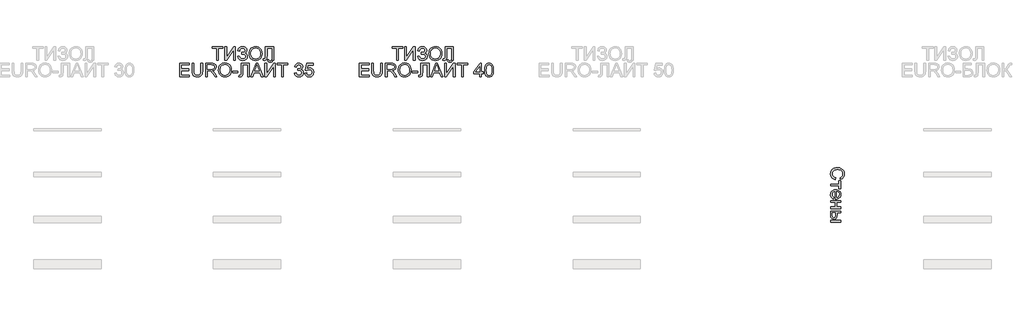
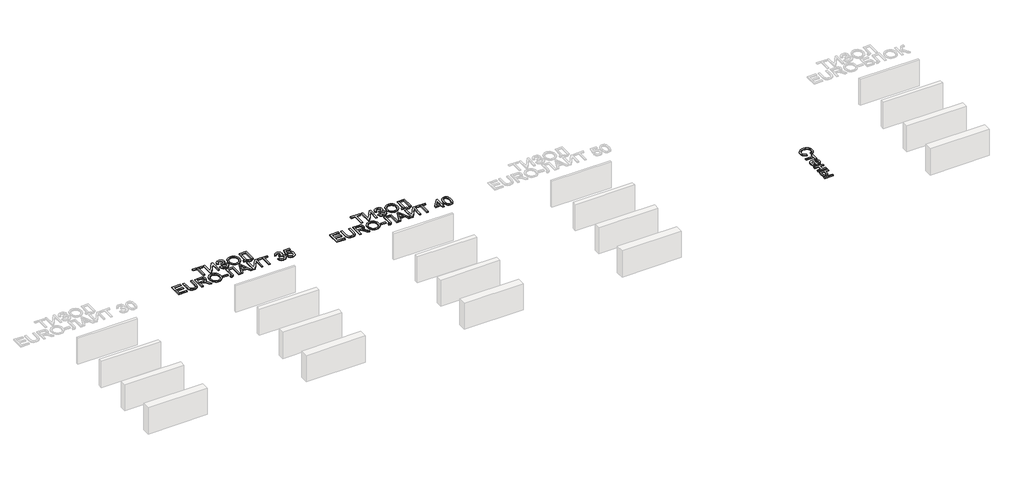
# One storey, part 30 of 35: 3 proxies.
"""IFC4 building model written with IfcOpenShell, lengths in millimetres."""

from ifc_helpers import new_model, si_unit, origin, origin_with_axes, place, context, project, spatial, polyline, outline, extrude, element, save

model = new_model("IFC4")

# Units and contexts
model_context = context("Model", 3, world=origin())
ifc_project = project(units=[si_unit("LENGTHUNIT", "METRE", prefix="MILLI")], contexts=[model_context])

# Site, building, storey
site = spatial("IfcSite", under=ifc_project)
building = spatial("IfcBuilding", under=site)
storey = spatial("IfcBuildingStorey", under=building, Name="Этаж 01", Elevation=0.0)

# Proxies
placement = place(None, origin())
element("IfcBuildingElementProxy", 1, Name="600 мм Arial", ObjectType="600 мм Arial", at=placement, inside=storey, context=model_context, shape_type="SweptSolid", body=[
    extrude(outline(polyline([(9312.8246338, 5315.0742808), (9312.8246338, 5578.7720949), (9213.9379535, 5578.7720949), (9213.9379535, 5616.4432112), (9449.3824304, 5616.4432112), (9449.3824304, 5578.7720949), (9350.4957501, 5578.7720949), (9350.4957501, 5315.0742808), (9312.8246338, 5315.0742808)])), origin_with_axes(), (0.0, 0.0, 1.0), 20.0),
    extrude(outline(polyline([(9491.7624363, 5616.4432112), (9529.4335526, 5616.4432112), (9529.4335526, 5377.7613727), (9687.1813521, 5616.4432112), (9727.2069132, 5616.4432112), (9727.2069132, 5315.0742808), (9689.5357969, 5315.0742808), (9689.5357969, 5553.0939316), (9532.1558793, 5315.0742808), (9491.7624363, 5315.0742808), (9491.7624363, 5616.4432112)])), origin_with_axes(), (0.0, 0.0, 1.0), 20.0),
    extrude(outline(polyline([(9779.0046981, 5399.8342925), (9816.6758144, 5409.2520715), (9824.6312626, 5388.8622119), (9839.8155919, 5368.4539583), (9861.6769795, 5353.1408702), (9889.6636023, 5348.0365075), (9918.018107, 5351.8716773), (9939.6587654, 5363.3771867), (9953.3715668, 5380.3089556), (9957.9425006, 5400.4229036), (9952.9485025, 5421.4933449), (9937.9665082, 5437.7629262), (9914.3760753, 5448.1647896), (9883.5567611, 5451.6320774), (9863.7647098, 5451.6320774), (9863.7647098, 5489.3031937), (9906.402233, 5492.3566142), (9920.2989754, 5497.7828737), (9932.4850665, 5507.9548108), (9940.9831406, 5521.3549125), (9943.8158319, 5536.4656655), (9940.0450415, 5554.2067747), (9928.7326701, 5569.4646804), (9910.9823639, 5579.9769084), (9887.8977687, 5583.4809844), (9867.0296625, 5580.7862488), (9849.4541002, 5572.702042), (9835.9896192, 5560.166463), (9827.4547569, 5544.117611), (9821.384704, 5517.5565309), (9783.7135876, 5526.97431), (9795.4168336, 5568.1770934), (9804.8311638, 5584.3639012), (9816.6206321, 5597.6076531), (9830.7852386, 5607.9083489), (9847.3249831, 5615.2659888), (9866.2398658, 5619.6805728), (9887.5298867, 5621.1521008), (9908.0416072, 5619.6230912), (9926.313846, 5615.0360626), (9942.3466032, 5607.3910149), (9956.1398788, 5596.6879481), (9967.2292217, 5583.9385377), (9975.1501809, 5570.1544592), (9979.9027564, 5555.3357126), (9981.4869483, 5539.4822978), (9979.0221389, 5519.6580568), (9971.6277108, 5502.1974576), (9959.3036639, 5487.1005002), (9942.0499984, 5474.3671847), (9963.000878, 5464.7194794), (9980.2361495, 5448.431504), (9991.76925, 5426.9012102), (9995.6136169, 5401.5265496), (9993.7696084, 5382.8956258), (9988.2375829, 5365.8511932), (9979.0175404, 5350.3932516), (9966.1094809, 5336.5218011), (9950.1571978, 5325.0783718), (9931.8044848, 5316.9044937), (9911.0513418, 5312.0001668), (9887.8977687, 5310.3653912), (9849.6932235, 5315.9571976), (9833.3362703, 5322.9469555), (9818.80953, 5332.7326165), (9806.1130026, 5345.3141808), (9795.2466882, 5360.6916482), (9779.0046981, 5399.8342925)])), origin_with_axes(), (0.0, 0.0, 1.0), 20.0),
    extrude(outline(polyline([(10033.2847332, 5461.7856204), (10035.7955278, 5497.1344817), (10043.3279116, 5528.4274439), (10055.8818847, 5555.6645071), (10073.457447, 5578.8456713), (10095.0015364, 5597.3547342), (10119.4610905, 5610.5754934), (10146.8361095, 5618.5079489), (10177.1265933, 5621.1521008), (10216.6555137, 5616.1856938), (10252.1009439, 5601.286473), (10281.5315035, 5577.502902), (10303.015812, 5545.8834445), (10316.1491993, 5507.9548108), (10320.526995, 5465.2437112), (10315.919273, 5421.9623945), (10302.096107, 5383.5003319), (10279.8208522, 5351.8256921), (10249.8568637, 5328.9066438), (10214.7149361, 5315.0007044), (10176.9058641, 5310.3653912), (10136.7699384, 5315.488148), (10101.1221731, 5330.8564184), (10071.7651899, 5355.0814477), (10050.5016105, 5386.7744816), (10037.5889525, 5423.2407844), (10033.2847332, 5461.7856204)]), holes=[polyline([(10070.9558495, 5461.4177384), (10072.8389454, 5436.4431495), (10078.4882333, 5414.2736608), (10087.9037131, 5394.9092722), (10101.0853849, 5378.3499839), (10117.108945, 5365.087838), (10135.0500901, 5355.6148766), (10154.90882, 5349.9310998), (10176.6851349, 5348.0365075), (10198.8339303, 5349.9494939), (10218.927185, 5355.688453), (10236.9648991, 5365.2533849), (10252.9470725, 5378.6442895), (10266.0321752, 5395.5530657), (10275.3786771, 5415.6716123), (10280.9865783, 5438.9999294), (10282.8558787, 5465.5380168), (10279.6553053, 5498.8865197), (10270.0535853, 5527.710074), (10254.2990388, 5551.2821128), (10232.6399864, 5568.8760692), (10206.5111677, 5579.8297556), (10177.3473225, 5583.4809844), (10156.327465, 5581.7220487), (10136.8251207, 5576.4452413), (10118.8402897, 5567.6505623), (10102.3729719, 5555.3380118), (10088.6279808, 5538.91438), (10078.8101301, 5517.7864572), (10072.9194196, 5491.9542433), (10070.9558495, 5461.4177384)])]), origin_with_axes(), (0.0, 0.0, 1.0), 20.0),
    extrude(outline(polyline([(10395.8692276, 5616.4432112), (10579.5159196, 5616.4432112), (10579.5159196, 5315.0742808), (10541.8448033, 5315.0742808), (10541.8448033, 5578.7720949), (10433.5403439, 5578.7720949), (10433.5403439, 5424.9974209), (10429.1625482, 5356.3874288), (10422.3843224, 5337.0000477), (10410.8052366, 5322.4687089), (10394.9495226, 5313.3912206), (10375.3414123, 5310.3653912), (10344.0714427, 5315.0742808), (10348.7803322, 5352.7453971), (10366.80655, 5348.0365075), (10379.5444641, 5350.5656963), (10388.6219523, 5358.1532624), (10394.0574088, 5375.1218194), (10395.8692276, 5405.7939808), (10395.8692276, 5616.4432112)])), origin_with_axes(), (0.0, 0.0, 1.0), 20.0),
    extrude(outline(polyline([(8484.0600751, 4949.1498272), (8484.0600751, 5250.5187577), (8700.6689938, 5250.5187577), (8700.6689938, 5212.8476414), (8521.7311914, 5212.8476414), (8521.7311914, 5123.3787401), (8691.2512148, 5123.3787401), (8691.2512148, 5085.7076238), (8521.7311914, 5085.7076238), (8521.7311914, 4986.8209435), (8705.3778834, 4986.8209435), (8705.3778834, 4949.1498272), (8484.0600751, 4949.1498272)])), origin_with_axes(), (0.0, 0.0, 1.0), 20.0),
    extrude(outline(polyline([(8959.6579184, 5250.5187577), (8997.3290348, 5250.5187577), (8997.3290348, 5076.6577268), (8994.7722549, 5035.9423869), (8987.1019153, 5004.5896439), (8972.7729116, 4980.4014027), (8950.2401394, 4961.1795685), (8919.4484164, 4948.6255954), (8880.3425603, 4944.4409377), (8842.0920298, 4948.0829694), (8811.511839, 4959.0090647), (8788.5927907, 4976.8421444), (8773.3256879, 5001.2051295), (8764.7448404, 5033.8822478), (8761.8845578, 5076.6577268), (8761.8845578, 5250.5187577), (8799.5556741, 5250.5187577), (8799.5556741, 5077.9821019), (8801.4134782, 5044.1277613), (8806.9868905, 5020.5557225), (8817.0852512, 5004.230959), (8832.5179009, 4992.1184443), (8852.6410461, 4984.6136516), (8876.8108931, 4982.112054), (8915.1258029, 4987.0600668), (8929.4686022, 4993.2450829), (8940.6016311, 5001.9041053), (8948.9387568, 5014.0809994), (8954.8938466, 5030.8196302), (8959.6579184, 5077.9821019), (8959.6579184, 5250.5187577)])), origin_with_axes(), (0.0, 0.0, 1.0), 20.0),
    extrude(outline(polyline([(9063.2534883, 4949.1498272), (9063.2534883, 5250.5187577), (9193.1158326, 5250.5187577), (9228.0186369, 5248.4862097), (9253.4116916, 5242.3885656), (9271.9713383, 5231.1313765), (9286.3739184, 5213.6201936), (9295.6169535, 5191.9059588), (9298.6979652, 5168.0396144), (9293.5936025, 5138.3515373), (9278.2805145, 5113.7402319), (9266.6807353, 5103.710849), (9252.2988486, 5095.69562), (9215.1887523, 5085.7076238), (9236.5994844, 5069.5943925), (9267.13369, 5030.8196302), (9317.3863706, 4949.1498272), (9273.6084131, 4949.1498272), (9234.3921924, 5011.61619), (9206.0652788, 5052.9661263), (9186.1628629, 5072.5006602), (9168.2470097, 5079.6743591), (9146.3948192, 5080.9987343), (9100.9246046, 5080.9987343), (9100.9246046, 4949.1498272), (9063.2534883, 4949.1498272)]), holes=[polyline([(9100.9246046, 5118.6698506), (9185.2431579, 5118.6698506), (9209.4589902, 5120.0034228), (9228.2485631, 5124.0041395), (9242.3936258, 5130.9387151), (9252.6759276, 5141.0738641), (9258.9391186, 5153.3335316), (9261.0268489, 5166.6416628), (9257.0445263, 5185.0173684), (9245.0975585, 5199.8246187), (9224.542152, 5209.5918857), (9194.7345134, 5212.8476414), (9100.9246046, 5212.8476414), (9100.9246046, 5118.6698506)])]), origin_with_axes(), (0.0, 0.0, 1.0), 20.0),
    extrude(outline(polyline([(9350.4957501, 5095.8611669), (9353.0065447, 5131.2100281), (9360.5389286, 5162.5029903), (9373.0929017, 5189.7400536), (9390.668464, 5212.9212178), (9412.2125533, 5231.4302807), (9436.6721075, 5244.6510399), (9464.0471265, 5252.5834954), (9494.3376102, 5255.2276472), (9533.8665306, 5250.2612403), (9569.3119609, 5235.3620195), (9598.7425205, 5211.5784485), (9620.226829, 5179.958991), (9633.3602162, 5142.0303573), (9637.738012, 5099.3192577), (9633.13029, 5056.0379409), (9619.307124, 5017.5758783), (9597.0318692, 4985.9012385), (9567.0678807, 4962.9821902), (9531.9259531, 4949.0762508), (9494.116881, 4944.4409377), (9453.9809554, 4949.5636945), (9418.33319, 4964.9319648), (9388.9762068, 4989.1569942), (9367.7126275, 5020.8500281), (9354.7999695, 5057.3163309), (9350.4957501, 5095.8611669)]), holes=[polyline([(9388.1668664, 5095.4932849), (9390.0499624, 5070.518696), (9395.6992503, 5048.3492072), (9405.1147301, 5028.9848187), (9418.2964018, 5012.4255304), (9434.319962, 4999.1633845), (9452.261107, 4989.6904231), (9472.119837, 4984.0066463), (9493.8961518, 4982.112054), (9516.0449472, 4984.0250404), (9536.1382019, 4989.7639995), (9554.175916, 4999.3289314), (9570.1580894, 5012.719836), (9583.2431922, 5029.6286122), (9592.5896941, 5049.7471588), (9598.1975953, 5073.0754758), (9600.0668957, 5099.6135633), (9596.8663223, 5132.9620661), (9587.2646022, 5161.7856204), (9571.5100558, 5185.3576593), (9549.8510033, 5202.9516157), (9523.7221846, 5213.9053021), (9494.5583394, 5217.5565309), (9473.5384819, 5215.7975951), (9454.0361377, 5210.5207878), (9436.0513066, 5201.7261088), (9419.5839888, 5189.4135583), (9405.8389978, 5172.9899265), (9396.021147, 5151.8620036), (9390.1304366, 5126.0297898), (9388.1668664, 5095.4932849)])]), origin_with_axes(), (0.0, 0.0, 1.0), 20.0),
    extrude(outline(polyline([(9665.9913492, 5038.6187285), (9665.9913492, 5076.2898448), (9783.7135876, 5076.2898448), (9783.7135876, 5038.6187285), (9665.9913492, 5038.6187285)])), origin_with_axes(), (0.0, 0.0, 1.0), 20.0),
    extrude(outline(polyline([(9854.3469307, 5250.5187577), (10037.9936227, 5250.5187577), (10037.9936227, 4949.1498272), (10000.3225064, 4949.1498272), (10000.3225064, 5212.8476414), (9892.018047, 5212.8476414), (9892.018047, 5059.0729674), (9887.6402513, 4990.4629753), (9880.8620255, 4971.0755941), (9869.2829397, 4956.5442553), (9853.4272257, 4947.4667671), (9833.8191154, 4944.4409377), (9802.5491458, 4949.1498272), (9807.2580353, 4986.8209435), (9825.2842531, 4982.112054), (9838.0221672, 4984.6412427), (9847.0996554, 4992.2288089), (9852.5351119, 5009.1973659), (9854.3469307, 5039.8695272), (9854.3469307, 5250.5187577)])), origin_with_axes(), (0.0, 0.0, 1.0), 20.0),
    extrude(outline(polyline([(10068.8221339, 4949.1498272), (10189.1195463, 5250.5187577), (10221.1988563, 5250.5187577), (10341.4962687, 4949.1498272), (10301.6914369, 4949.1498272), (10267.1841057, 5043.327618), (10143.0607205, 5043.327618), (10108.6269658, 4949.1498272), (10068.8221339, 4949.1498272)]), holes=[polyline([(10156.8930836, 5080.9987343), (10253.4253191, 5080.9987343), (10226.2756278, 5155.0901681), (10205.1592013, 5212.8476414), (10186.3972196, 5161.5648912), (10156.8930836, 5080.9987343)])]), origin_with_axes(), (0.0, 0.0, 1.0), 20.0),
    extrude(outline(polyline([(10381.742559, 5250.5187577), (10419.4136753, 5250.5187577), (10419.4136753, 5011.8369192), (10577.1614748, 5250.5187577), (10617.1870359, 5250.5187577), (10617.1870359, 4949.1498272), (10579.5159196, 4949.1498272), (10579.5159196, 5187.1694781), (10422.1360021, 4949.1498272), (10381.742559, 4949.1498272), (10381.742559, 5250.5187577)])), origin_with_axes(), (0.0, 0.0, 1.0), 20.0),
    extrude(outline(polyline([(10532.4270242, 5325.8609903), (10560.6803615, 5325.8609903), (10554.6011115, 5301.7371285), (10542.3966263, 5283.959231), (10524.6187289, 5273.0055446), (10501.8192422, 5269.3543158), (10477.0791781, 5272.9779535), (10457.894132, 5283.8488664), (10444.7791389, 5301.5991727), (10438.2492335, 5325.8609903), (10466.5025707, 5325.8609903), (10470.4756962, 5313.45417), (10477.0975722, 5304.6341992), (10486.4049866, 5299.3642896), (10498.4347279, 5297.6076531), (10512.0095735, 5299.3091073), (10521.8320228, 5304.41347), (10528.4538987, 5313.1782585), (10532.4270242, 5325.8609903)])), origin_with_axes(), (0.0, 0.0, 1.0), 20.0),
    extrude(outline(polyline([(10758.4537221, 4949.1498272), (10758.4537221, 5212.8476414), (10659.5670418, 5212.8476414), (10659.5670418, 5250.5187577), (10895.0115187, 5250.5187577), (10895.0115187, 5212.8476414), (10796.1248384, 5212.8476414), (10796.1248384, 4949.1498272), (10758.4537221, 4949.1498272)])), origin_with_axes(), (0.0, 0.0, 1.0), 20.0),
    extrude(outline(polyline([(11040.9870944, 5029.2009494), (11078.6582107, 5033.9098389), (11087.0919054, 5010.2366325), (11099.4435434, 4994.2521598), (11116.3201299, 4985.1470805), (11138.3286703, 4982.112054), (11164.1539863, 4986.2875146), (11184.0931905, 4998.8138966), (11196.8403016, 5017.5023019), (11201.0893387, 5040.1638328), (11196.8770898, 5061.6757325), (11184.2403433, 5079.1225361), (11165.1104795, 5090.6832278), (11141.418879, 5094.5367917), (11115.0049518, 5090.4165134), (11119.1988065, 5128.0876297), (11125.2320713, 5127.6461713), (11147.8016317, 5130.350104), (11167.9799591, 5138.4619019), (11182.2169923, 5152.1839004), (11186.96267, 5171.7184343), (11183.5229734, 5187.9880155), (11173.2038834, 5201.1857821), (11157.458534, 5209.9321766), (11137.7400591, 5212.8476414), (11117.984796, 5209.9045854), (11101.8347764, 5201.0754175), (11090.0441584, 5186.3601377), (11083.3671002, 5165.758746), (11045.6959839, 5170.4676355), (11056.7876261, 5204.294385), (11076.5244951, 5229.549484), (11103.5270335, 5245.2764392), (11136.4156839, 5250.5187577), (11160.0980873, 5247.9343867), (11181.8491103, 5240.1812736), (11200.1880278, 5227.9491973), (11213.6341147, 5211.9279364), (11221.8838684, 5193.4694573), (11224.6337864, 5173.9257263), (11222.0218242, 5155.7155675), (11214.1859377, 5139.1976659), (11201.2364915, 5125.1261796), (11183.2838501, 5114.2552667), (11206.865086, 5104.727123), (11224.3394808, 5088.503527), (11235.1552114, 5066.4673955), (11238.760455, 5039.5016452), (11236.9578332, 5020.3901756), (11231.5499679, 5002.7870221), (11222.536859, 4986.6921848), (11209.9185065, 4972.1056637), (11194.5456377, 4960.0023461), (11177.2689795, 4951.3571192), (11158.088532, 4946.1699831), (11137.0042951, 4944.4409377), (11117.9480078, 4945.9170642), (11100.5839776, 4950.3454437), (11084.9122046, 4957.7260762), (11070.9326888, 4968.0589618), (11059.2110487, 4980.737095), (11050.3129029, 4995.1534707), (11044.2382515, 5011.3080888), (11040.9870944, 5029.2009494)])), origin_with_axes(), (0.0, 0.0, 1.0), 20.0),
    extrude(outline(polyline([(11271.7226817, 5029.2009494), (11309.393798, 5033.9098389), (11316.3099796, 5011.2942933), (11328.376509, 4995.0982884), (11345.5382041, 4985.3586126), (11367.7398825, 4982.112054), (11394.7424209, 4986.6278055), (11414.9759307, 5000.17506), (11427.6126772, 5021.1903189), (11431.824926, 5048.1100839), (11427.8793916, 5073.4571534), (11416.0427884, 5092.8445345), (11396.223146, 5105.1501873), (11368.3284937, 5109.2520715), (11350.0539556, 5107.6149967), (11335.2559023, 5102.703772), (11314.1026876, 5085.7076238), (11276.4315713, 5090.4165134), (11309.393798, 5245.8098681), (11455.3693737, 5245.8098681), (11455.3693737, 5208.1387518), (11339.8544272, 5208.1387518), (11323.7411959, 5125.1445737), (11350.6517638, 5141.4785343), (11378.8499187, 5146.9231878), (11397.195734, 5145.2355292), (11414.0470286, 5140.1725532), (11429.4038027, 5131.73426), (11443.2660561, 5119.9206494), (11454.7416751, 5105.4536899), (11462.9385458, 5089.05535), (11467.8566682, 5070.7256296), (11469.4960423, 5050.4645287), (11463.5915363, 5012.7934124), (11456.2109038, 4995.9995993), (11445.8780183, 4980.5669496), (11430.2246394, 4964.7618194), (11411.9592983, 4953.4724407), (11391.0819951, 4946.6988134), (11367.5927297, 4944.4409377), (11330.592998, 4950.2442762), (11314.9143272, 4957.4984493), (11301.1164532, 4967.6542916), (11289.6362356, 4980.2059654), (11280.9105346, 4994.647633), (11271.7226817, 5029.2009494)])), origin_with_axes(), (0.0, 0.0, 1.0), 20.0),
])
element("IfcBuildingElementProxy", 2, Name="600 мм Arial", ObjectType="600 мм Arial", at=placement, inside=storey, context=model_context, shape_type="SweptSolid", body=[
    extrude(outline(polyline([(13312.8246338, 5315.0742808), (13312.8246338, 5578.7720949), (13213.9379535, 5578.7720949), (13213.9379535, 5616.4432112), (13449.3824304, 5616.4432112), (13449.3824304, 5578.7720949), (13350.4957501, 5578.7720949), (13350.4957501, 5315.0742808), (13312.8246338, 5315.0742808)])), origin_with_axes(), (0.0, 0.0, 1.0), 20.0),
    extrude(outline(polyline([(13491.7624363, 5616.4432112), (13529.4335526, 5616.4432112), (13529.4335526, 5377.7613727), (13687.1813521, 5616.4432112), (13727.2069132, 5616.4432112), (13727.2069132, 5315.0742808), (13689.5357969, 5315.0742808), (13689.5357969, 5553.0939316), (13532.1558793, 5315.0742808), (13491.7624363, 5315.0742808), (13491.7624363, 5616.4432112)])), origin_with_axes(), (0.0, 0.0, 1.0), 20.0),
    extrude(outline(polyline([(13779.0046981, 5399.8342925), (13816.6758144, 5409.2520715), (13824.6312626, 5388.8622119), (13839.8155919, 5368.4539583), (13861.6769795, 5353.1408702), (13889.6636023, 5348.0365075), (13918.018107, 5351.8716773), (13939.6587654, 5363.3771867), (13953.3715668, 5380.3089556), (13957.9425006, 5400.4229036), (13952.9485025, 5421.4933449), (13937.9665082, 5437.7629262), (13914.3760753, 5448.1647896), (13883.5567611, 5451.6320774), (13863.7647098, 5451.6320774), (13863.7647098, 5489.3031937), (13906.402233, 5492.3566142), (13920.2989754, 5497.7828737), (13932.4850665, 5507.9548108), (13940.9831406, 5521.3549125), (13943.8158319, 5536.4656655), (13940.0450415, 5554.2067747), (13928.7326701, 5569.4646804), (13910.9823639, 5579.9769084), (13887.8977687, 5583.4809844), (13867.0296625, 5580.7862488), (13849.4541002, 5572.702042), (13835.9896192, 5560.166463), (13827.4547569, 5544.117611), (13821.384704, 5517.5565309), (13783.7135876, 5526.97431), (13795.4168336, 5568.1770934), (13804.8311638, 5584.3639012), (13816.6206321, 5597.6076531), (13830.7852386, 5607.9083489), (13847.3249831, 5615.2659888), (13866.2398658, 5619.6805728), (13887.5298867, 5621.1521008), (13908.0416072, 5619.6230912), (13926.313846, 5615.0360626), (13942.3466032, 5607.3910149), (13956.1398788, 5596.6879481), (13967.2292217, 5583.9385377), (13975.1501809, 5570.1544592), (13979.9027564, 5555.3357126), (13981.4869483, 5539.4822978), (13979.0221389, 5519.6580568), (13971.6277108, 5502.1974576), (13959.3036639, 5487.1005002), (13942.0499984, 5474.3671847), (13963.000878, 5464.7194794), (13980.2361495, 5448.431504), (13991.76925, 5426.9012102), (13995.6136169, 5401.5265496), (13993.7696084, 5382.8956258), (13988.2375829, 5365.8511932), (13979.0175404, 5350.3932516), (13966.1094809, 5336.5218011), (13950.1571978, 5325.0783718), (13931.8044848, 5316.9044937), (13911.0513418, 5312.0001668), (13887.8977687, 5310.3653912), (13849.6932235, 5315.9571976), (13833.3362703, 5322.9469555), (13818.80953, 5332.7326165), (13806.1130026, 5345.3141808), (13795.2466882, 5360.6916482), (13779.0046981, 5399.8342925)])), origin_with_axes(), (0.0, 0.0, 1.0), 20.0),
    extrude(outline(polyline([(14033.2847332, 5461.7856204), (14035.7955278, 5497.1344817), (14043.3279116, 5528.4274439), (14055.8818847, 5555.6645071), (14073.457447, 5578.8456713), (14095.0015364, 5597.3547342), (14119.4610905, 5610.5754934), (14146.8361095, 5618.5079489), (14177.1265933, 5621.1521008), (14216.6555137, 5616.1856938), (14252.1009439, 5601.286473), (14281.5315035, 5577.502902), (14303.015812, 5545.8834445), (14316.1491993, 5507.9548108), (14320.526995, 5465.2437112), (14315.919273, 5421.9623945), (14302.096107, 5383.5003319), (14279.8208522, 5351.8256921), (14249.8568637, 5328.9066438), (14214.7149361, 5315.0007044), (14176.9058641, 5310.3653912), (14136.7699384, 5315.488148), (14101.1221731, 5330.8564184), (14071.7651899, 5355.0814477), (14050.5016105, 5386.7744816), (14037.5889525, 5423.2407844), (14033.2847332, 5461.7856204)]), holes=[polyline([(14070.9558495, 5461.4177384), (14072.8389454, 5436.4431495), (14078.4882333, 5414.2736608), (14087.9037131, 5394.9092722), (14101.0853849, 5378.3499839), (14117.108945, 5365.087838), (14135.0500901, 5355.6148766), (14154.90882, 5349.9310998), (14176.6851349, 5348.0365075), (14198.8339303, 5349.9494939), (14218.927185, 5355.688453), (14236.9648991, 5365.2533849), (14252.9470725, 5378.6442895), (14266.0321752, 5395.5530657), (14275.3786771, 5415.6716123), (14280.9865783, 5438.9999294), (14282.8558787, 5465.5380168), (14279.6553053, 5498.8865197), (14270.0535853, 5527.710074), (14254.2990388, 5551.2821128), (14232.6399864, 5568.8760692), (14206.5111677, 5579.8297556), (14177.3473225, 5583.4809844), (14156.327465, 5581.7220487), (14136.8251207, 5576.4452413), (14118.8402897, 5567.6505623), (14102.3729719, 5555.3380118), (14088.6279808, 5538.91438), (14078.8101301, 5517.7864572), (14072.9194196, 5491.9542433), (14070.9558495, 5461.4177384)])]), origin_with_axes(), (0.0, 0.0, 1.0), 20.0),
    extrude(outline(polyline([(14395.8692276, 5616.4432112), (14579.5159196, 5616.4432112), (14579.5159196, 5315.0742808), (14541.8448033, 5315.0742808), (14541.8448033, 5578.7720949), (14433.5403439, 5578.7720949), (14433.5403439, 5424.9974209), (14429.1625482, 5356.3874288), (14422.3843224, 5337.0000477), (14410.8052366, 5322.4687089), (14394.9495226, 5313.3912206), (14375.3414123, 5310.3653912), (14344.0714427, 5315.0742808), (14348.7803322, 5352.7453971), (14366.80655, 5348.0365075), (14379.5444641, 5350.5656963), (14388.6219523, 5358.1532624), (14394.0574088, 5375.1218194), (14395.8692276, 5405.7939808), (14395.8692276, 5616.4432112)])), origin_with_axes(), (0.0, 0.0, 1.0), 20.0),
    extrude(outline(polyline([(12484.0600751, 4949.1498272), (12484.0600751, 5250.5187577), (12700.6689938, 5250.5187577), (12700.6689938, 5212.8476414), (12521.7311914, 5212.8476414), (12521.7311914, 5123.3787401), (12691.2512148, 5123.3787401), (12691.2512148, 5085.7076238), (12521.7311914, 5085.7076238), (12521.7311914, 4986.8209435), (12705.3778834, 4986.8209435), (12705.3778834, 4949.1498272), (12484.0600751, 4949.1498272)])), origin_with_axes(), (0.0, 0.0, 1.0), 20.0),
    extrude(outline(polyline([(12959.6579184, 5250.5187577), (12997.3290348, 5250.5187577), (12997.3290348, 5076.6577268), (12994.7722549, 5035.9423869), (12987.1019153, 5004.5896439), (12972.7729116, 4980.4014027), (12950.2401394, 4961.1795685), (12919.4484164, 4948.6255954), (12880.3425603, 4944.4409377), (12842.0920298, 4948.0829694), (12811.511839, 4959.0090647), (12788.5927907, 4976.8421444), (12773.3256879, 5001.2051295), (12764.7448404, 5033.8822478), (12761.8845578, 5076.6577268), (12761.8845578, 5250.5187577), (12799.5556741, 5250.5187577), (12799.5556741, 5077.9821019), (12801.4134782, 5044.1277613), (12806.9868905, 5020.5557225), (12817.0852512, 5004.230959), (12832.5179009, 4992.1184443), (12852.6410461, 4984.6136516), (12876.8108931, 4982.112054), (12915.1258029, 4987.0600668), (12929.4686022, 4993.2450829), (12940.6016311, 5001.9041053), (12948.9387568, 5014.0809994), (12954.8938466, 5030.8196302), (12959.6579184, 5077.9821019), (12959.6579184, 5250.5187577)])), origin_with_axes(), (0.0, 0.0, 1.0), 20.0),
    extrude(outline(polyline([(13063.2534883, 4949.1498272), (13063.2534883, 5250.5187577), (13193.1158326, 5250.5187577), (13228.0186369, 5248.4862097), (13253.4116916, 5242.3885656), (13271.9713383, 5231.1313765), (13286.3739184, 5213.6201936), (13295.6169535, 5191.9059588), (13298.6979652, 5168.0396144), (13293.5936025, 5138.3515373), (13278.2805145, 5113.7402319), (13266.6807353, 5103.710849), (13252.2988486, 5095.69562), (13215.1887523, 5085.7076238), (13236.5994844, 5069.5943925), (13267.13369, 5030.8196302), (13317.3863706, 4949.1498272), (13273.6084131, 4949.1498272), (13234.3921924, 5011.61619), (13206.0652788, 5052.9661263), (13186.1628629, 5072.5006602), (13168.2470097, 5079.6743591), (13146.3948192, 5080.9987343), (13100.9246046, 5080.9987343), (13100.9246046, 4949.1498272), (13063.2534883, 4949.1498272)]), holes=[polyline([(13100.9246046, 5118.6698506), (13185.2431579, 5118.6698506), (13209.4589902, 5120.0034228), (13228.2485631, 5124.0041395), (13242.3936258, 5130.9387151), (13252.6759276, 5141.0738641), (13258.9391186, 5153.3335316), (13261.0268489, 5166.6416628), (13257.0445263, 5185.0173684), (13245.0975585, 5199.8246187), (13224.542152, 5209.5918857), (13194.7345134, 5212.8476414), (13100.9246046, 5212.8476414), (13100.9246046, 5118.6698506)])]), origin_with_axes(), (0.0, 0.0, 1.0), 20.0),
    extrude(outline(polyline([(13350.4957501, 5095.8611669), (13353.0065447, 5131.2100281), (13360.5389286, 5162.5029903), (13373.0929017, 5189.7400536), (13390.668464, 5212.9212178), (13412.2125533, 5231.4302807), (13436.6721075, 5244.6510399), (13464.0471265, 5252.5834954), (13494.3376102, 5255.2276472), (13533.8665306, 5250.2612403), (13569.3119609, 5235.3620195), (13598.7425205, 5211.5784485), (13620.226829, 5179.958991), (13633.3602162, 5142.0303573), (13637.738012, 5099.3192577), (13633.13029, 5056.0379409), (13619.307124, 5017.5758783), (13597.0318692, 4985.9012385), (13567.0678807, 4962.9821902), (13531.9259531, 4949.0762508), (13494.116881, 4944.4409377), (13453.9809554, 4949.5636945), (13418.33319, 4964.9319648), (13388.9762068, 4989.1569942), (13367.7126275, 5020.8500281), (13354.7999695, 5057.3163309), (13350.4957501, 5095.8611669)]), holes=[polyline([(13388.1668664, 5095.4932849), (13390.0499624, 5070.518696), (13395.6992503, 5048.3492072), (13405.1147301, 5028.9848187), (13418.2964018, 5012.4255304), (13434.319962, 4999.1633845), (13452.261107, 4989.6904231), (13472.119837, 4984.0066463), (13493.8961518, 4982.112054), (13516.0449472, 4984.0250404), (13536.1382019, 4989.7639995), (13554.175916, 4999.3289314), (13570.1580894, 5012.719836), (13583.2431922, 5029.6286122), (13592.5896941, 5049.7471588), (13598.1975953, 5073.0754758), (13600.0668957, 5099.6135633), (13596.8663223, 5132.9620661), (13587.2646022, 5161.7856204), (13571.5100558, 5185.3576593), (13549.8510033, 5202.9516157), (13523.7221846, 5213.9053021), (13494.5583394, 5217.5565309), (13473.5384819, 5215.7975951), (13454.0361377, 5210.5207878), (13436.0513066, 5201.7261088), (13419.5839888, 5189.4135583), (13405.8389978, 5172.9899265), (13396.021147, 5151.8620036), (13390.1304366, 5126.0297898), (13388.1668664, 5095.4932849)])]), origin_with_axes(), (0.0, 0.0, 1.0), 20.0),
    extrude(outline(polyline([(13665.9913492, 5038.6187285), (13665.9913492, 5076.2898448), (13783.7135876, 5076.2898448), (13783.7135876, 5038.6187285), (13665.9913492, 5038.6187285)])), origin_with_axes(), (0.0, 0.0, 1.0), 20.0),
    extrude(outline(polyline([(13854.3469307, 5250.5187577), (14037.9936227, 5250.5187577), (14037.9936227, 4949.1498272), (14000.3225064, 4949.1498272), (14000.3225064, 5212.8476414), (13892.018047, 5212.8476414), (13892.018047, 5059.0729674), (13887.6402513, 4990.4629753), (13880.8620255, 4971.0755941), (13869.2829397, 4956.5442553), (13853.4272257, 4947.4667671), (13833.8191154, 4944.4409377), (13802.5491458, 4949.1498272), (13807.2580353, 4986.8209435), (13825.2842531, 4982.112054), (13838.0221672, 4984.6412427), (13847.0996554, 4992.2288089), (13852.5351119, 5009.1973659), (13854.3469307, 5039.8695272), (13854.3469307, 5250.5187577)])), origin_with_axes(), (0.0, 0.0, 1.0), 20.0),
    extrude(outline(polyline([(14068.8221339, 4949.1498272), (14189.1195463, 5250.5187577), (14221.1988563, 5250.5187577), (14341.4962687, 4949.1498272), (14301.6914369, 4949.1498272), (14267.1841057, 5043.327618), (14143.0607205, 5043.327618), (14108.6269658, 4949.1498272), (14068.8221339, 4949.1498272)]), holes=[polyline([(14156.8930836, 5080.9987343), (14253.4253191, 5080.9987343), (14226.2756278, 5155.0901681), (14205.1592013, 5212.8476414), (14186.3972196, 5161.5648912), (14156.8930836, 5080.9987343)])]), origin_with_axes(), (0.0, 0.0, 1.0), 20.0),
    extrude(outline(polyline([(14381.742559, 5250.5187577), (14419.4136753, 5250.5187577), (14419.4136753, 5011.8369192), (14577.1614748, 5250.5187577), (14617.1870359, 5250.5187577), (14617.1870359, 4949.1498272), (14579.5159196, 4949.1498272), (14579.5159196, 5187.1694781), (14422.1360021, 4949.1498272), (14381.742559, 4949.1498272), (14381.742559, 5250.5187577)])), origin_with_axes(), (0.0, 0.0, 1.0), 20.0),
    extrude(outline(polyline([(14532.4270242, 5325.8609903), (14560.6803615, 5325.8609903), (14554.6011115, 5301.7371285), (14542.3966263, 5283.959231), (14524.6187289, 5273.0055446), (14501.8192422, 5269.3543158), (14477.0791781, 5272.9779535), (14457.894132, 5283.8488664), (14444.7791389, 5301.5991727), (14438.2492335, 5325.8609903), (14466.5025707, 5325.8609903), (14470.4756962, 5313.45417), (14477.0975722, 5304.6341992), (14486.4049866, 5299.3642896), (14498.4347279, 5297.6076531), (14512.0095735, 5299.3091073), (14521.8320228, 5304.41347), (14528.4538987, 5313.1782585), (14532.4270242, 5325.8609903)])), origin_with_axes(), (0.0, 0.0, 1.0), 20.0),
    extrude(outline(polyline([(14758.4537221, 4949.1498272), (14758.4537221, 5212.8476414), (14659.5670418, 5212.8476414), (14659.5670418, 5250.5187577), (14895.0115187, 5250.5187577), (14895.0115187, 5212.8476414), (14796.1248384, 5212.8476414), (14796.1248384, 4949.1498272), (14758.4537221, 4949.1498272)])), origin_with_axes(), (0.0, 0.0, 1.0), 20.0),
    extrude(outline(polyline([(15163.4182224, 4949.1498272), (15163.4182224, 5019.7831703), (15026.8604257, 5019.7831703), (15026.8604257, 5057.4542866), (15172.8360014, 5245.8098681), (15201.0893387, 5245.8098681), (15201.0893387, 5057.4542866), (15238.760455, 5057.4542866), (15238.760455, 5019.7831703), (15201.0893387, 5019.7831703), (15201.0893387, 4949.1498272), (15163.4182224, 4949.1498272)]), holes=[polyline([(15163.4182224, 5057.4542866), (15163.4182224, 5173.8521499), (15073.2135571, 5057.4542866), (15163.4182224, 5057.4542866)])]), origin_with_axes(), (0.0, 0.0, 1.0), 20.0),
    extrude(outline(polyline([(15271.7226817, 5097.4062713), (15274.4909937, 5145.6447979), (15282.7959298, 5184.1160575), (15296.5547164, 5213.4086614), (15315.6845802, 5234.1112207), (15340.3234768, 5246.4168734), (15370.609362, 5250.5187577), (15393.8227159, 5248.0907365), (15414.6080487, 5240.806673), (15431.9904729, 5228.9516757), (15444.9951015, 5212.8108532), (15454.8175507, 5192.5221611), (15462.6534372, 5168.2235554), (15467.7853911, 5137.367453), (15469.4960423, 5097.4062713), (15466.7553215, 5049.4436562), (15458.5331589, 5011.064367), (15444.8571457, 4981.744172), (15425.7548731, 4960.9588393), (15401.0607942, 4948.5704131), (15370.609362, 4944.4409377), (15349.8608175, 4946.2343624), (15331.4667178, 4951.6146366), (15315.4270628, 4960.5817602), (15301.7418525, 4973.1357333), (15288.6084653, 4995.8294539), (15279.2274744, 5024.1057837), (15273.5988799, 5057.9647229), (15271.7226817, 5097.4062713)]), holes=[polyline([(15309.393798, 5097.4798477), (15313.808382, 5038.2232553), (15319.3266119, 5017.9552566), (15327.0521338, 5003.9274563), (15346.7706088, 4987.5659046), (15370.609362, 4982.112054), (15394.4481153, 4987.5842987), (15414.1665903, 5004.0010327), (15421.8921122, 5018.0518257), (15427.4103421, 5038.3152258), (15431.824926, 5097.4798477), (15427.5574949, 5155.4028678), (15422.223206, 5175.6041879), (15414.7552015, 5189.9653813), (15395.0735147, 5207.1270763), (15370.1679036, 5212.8476414), (15346.5866678, 5207.807658), (15327.640745, 5192.687708), (15319.6577057, 5177.0527232), (15313.9555348, 5155.9730849), (15309.393798, 5097.4798477)])]), origin_with_axes(), (0.0, 0.0, 1.0), 20.0),
])
element("IfcBuildingElementProxy", 3, Name="600 мм Arial", ObjectType="600 мм Arial", at=placement, inside=storey, context=model_context, shape_type="SweptSolid", body=[
    extrude(outline(polyline([(23079.2458771, 2698.1286737), (23069.5337924, 2660.4575574), (23046.1066071, 2667.9117663), (23025.6362733, 2677.8399817), (23008.1227911, 2690.2422034), (22993.5661604, 2705.1184316), (22982.1227311, 2722.1329739), (22973.948853, 2740.9501379), (22969.0445262, 2761.5699238), (22967.4097505, 2783.9923314), (22972.3577634, 2827.6875153), (22987.2018019, 2862.3879845), (23011.4268313, 2888.9858528), (23044.5178167, 2908.3732339), (23083.4213377, 2920.2098371), (23125.0839737, 2924.1553715), (23169.027478, 2919.6948023), (23206.9745058, 2906.3130948), (23237.7202435, 2884.7092246), (23260.0598777, 2855.5821676), (23273.6623145, 2821.0380483), (23278.1964601, 2783.182991), (23272.3287422, 2741.87904), (23264.994095, 2723.9103038), (23254.7255888, 2707.7303938), (23241.7945366, 2693.6060244), (23226.4722515, 2681.8039101), (23188.6539824, 2665.1664469), (23179.6776618, 2702.8375632), (23207.1492497, 2715.8973741), (23225.994005, 2733.7396508), (23236.8925091, 2756.5851227), (23240.5253438, 2784.654519), (23236.4970359, 2817.0097404), (23224.4121124, 2843.5892146), (23205.539766, 2863.758345), (23181.1491897, 2876.8825351), (23153.5764342, 2884.0838252), (23125.1575501, 2886.4842552), (23090.3559133, 2883.6423668), (23060.2631661, 2875.1167016), (23036.0289397, 2860.5853628), (23018.8028653, 2839.7264536), (23008.5113665, 2814.719675), (23005.0808668, 2787.7447277), (23009.7529682, 2756.3000142), (23023.7692722, 2730.0976191), (23046.9826261, 2710.3147648), (23079.2458771, 2698.1286737)])), origin_with_axes(), (0.0, 0.0, 1.0), 20.0),
    extrude(outline(polyline([(23193.4364484, 2632.2042201), (23193.4364484, 2453.2664177), (23155.7653321, 2453.2664177), (23155.7653321, 2523.8997608), (22972.1186401, 2523.8997608), (22972.1186401, 2561.5708771), (23155.7653321, 2561.5708771), (23155.7653321, 2632.2042201), (23193.4364484, 2632.2042201)])), origin_with_axes(), (0.0, 0.0, 1.0), 20.0),
    extrude(outline(polyline([(23038.0430936, 2265.3522946), (23033.3342041, 2228.4169422), (23005.5039311, 2241.7250734), (22984.7002043, 2262.9610616), (22971.732364, 2291.6466602), (22967.4097505, 2327.3036225), (22969.2744524, 2350.6779248), (22974.868558, 2371.5046443), (22984.1920673, 2389.7837809), (22997.2449803, 2405.5153347), (23013.6640136, 2418.1658768), (23033.0858837, 2427.2019783), (23055.5105906, 2432.6236392), (23080.9381343, 2434.4308595), (23107.2279013, 2432.6052451), (23130.3998685, 2427.1284019), (23150.4540358, 2418.0003299), (23167.3904031, 2405.2210291), (23180.8456871, 2389.530862), (23190.4566042, 2371.6701912), (23196.2231545, 2351.6390165), (23198.1453379, 2329.4373381), (23196.227753, 2307.9507303), (23190.4749983, 2288.5196632), (23180.8870738, 2271.1441367), (23167.4639795, 2255.8241509), (23150.5644004, 2243.3184623), (23130.5470213, 2234.3858276), (23107.4118423, 2229.0262468), (23081.1588634, 2227.2397199), (23071.0053204, 2227.4604491), (23071.0053204, 2396.7597432), (23042.8071655, 2390.2390349), (23022.077015, 2375.0914937), (23009.3299039, 2353.2301062), (23005.0808668, 2326.5678586), (23007.0490355, 2306.5182898), (23012.9535415, 2289.6325062), (23023.1622669, 2275.9105078), (23038.0430936, 2265.3522946)]), holes=[polyline([(23108.6764367, 2396.7597432), (23108.6764367, 2264.9108362), (23128.5788526, 2270.0060018), (23142.8158858, 2279.993998), (23156.0596377, 2301.9565531), (23160.4742216, 2329.5844909), (23156.9517515, 2354.9775456), (23146.3843412, 2375.9744105), (23129.9124249, 2390.5701287), (23108.6764367, 2396.7597432)])]), origin_with_axes(), (0.0, 0.0, 1.0), 20.0),
    extrude(outline(polyline([(23193.4364484, 2189.5686036), (23193.4364484, 2151.8974872), (23108.6764367, 2151.8974872), (23108.6764367, 2053.0108069), (23193.4364484, 2053.0108069), (23193.4364484, 2015.3396906), (22972.1186401, 2015.3396906), (22972.1186401, 2053.0108069), (23071.0053204, 2053.0108069), (23071.0053204, 2151.8974872), (22972.1186401, 2151.8974872), (22972.1186401, 2189.5686036), (23193.4364484, 2189.5686036)])), origin_with_axes(), (0.0, 0.0, 1.0), 20.0),
    extrude(outline(polyline([(23193.4364484, 1751.6418765), (23193.4364484, 1713.9707602), (22972.1186401, 1713.9707602), (22972.1186401, 1751.6418765), (23193.4364484, 1751.6418765)])), origin_with_axes(), (0.0, 0.0, 1.0), 20.0),
    extrude(outline(polyline([(23193.4364484, 1958.8330162), (23193.4364484, 1921.1618999), (23113.3853262, 1921.1618999), (23113.3853262, 1874.5880393), (23108.6672396, 1834.332552), (23102.7696314, 1818.1158538), (23094.5129799, 1804.5065192), (23084.1823936, 1793.7390731), (23072.0629811, 1786.0480401), (23058.1547424, 1781.4334203), (23042.4576776, 1779.8952137), (23015.5011244, 1785.0547587), (22992.75682, 1800.5333937), (22983.7276163, 1812.3952887), (22977.2781851, 1827.3427941), (22972.1186401, 1866.4946354), (22972.1186401, 1958.8330162), (23193.4364484, 1958.8330162)]), holes=[polyline([(23009.7897564, 1921.1618999), (23009.7897564, 1882.460714), (23011.7671221, 1852.4599373), (23017.6992193, 1832.502339), (23027.8251712, 1821.3003323), (23042.3841012, 1817.56633), (23054.6897539, 1820.334642), (23065.5606669, 1828.6395781), (23073.1758242, 1846.3990814), (23075.7142099, 1877.5310952), (23075.7142099, 1921.1618999), (23009.7897564, 1921.1618999)])]), origin_with_axes(), (0.0, 0.0, 1.0), 20.0),
])

save(model, "model.ifc")
